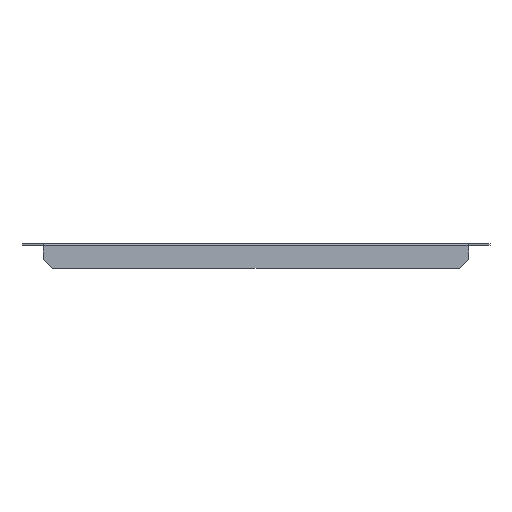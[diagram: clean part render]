
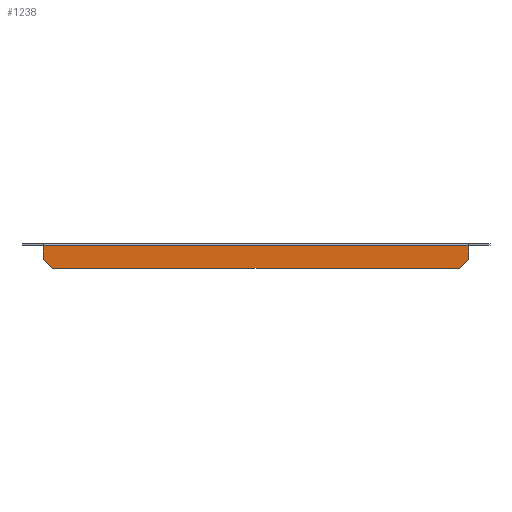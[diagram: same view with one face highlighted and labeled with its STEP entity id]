
A CAD part, front view. The second image highlights one B-rep face of the part: STEP entity #1238.
In plain terms, the highlighted planar face has unit normal (0, -1, 0).
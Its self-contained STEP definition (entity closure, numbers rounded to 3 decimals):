
#69 = DIRECTION ( 'NONE',  ( 0., 0., 1. ) ) ;
#78 = VERTEX_POINT ( 'NONE', #1027 ) ;
#86 = EDGE_CURVE ( 'NONE', #78, #296, #1514, .T. ) ;
#101 = VECTOR ( 'NONE', #376, 1000. ) ;
#127 = VECTOR ( 'NONE', #558, 1000. ) ;
#133 = CARTESIAN_POINT ( 'NONE',  ( 242.154, 0., -222.154 ) ) ;
#168 = ORIENTED_EDGE ( 'NONE', *, *, #1500, .T. ) ;
#214 = CARTESIAN_POINT ( 'NONE',  ( 439.308, 0., -25. ) ) ;
#296 = VERTEX_POINT ( 'NONE', #1547 ) ;
#307 = ORIENTED_EDGE ( 'NONE', *, *, #713, .F. ) ;
#310 = AXIS2_PLACEMENT_3D ( 'NONE', #1411, #813, #69 ) ;
#323 = VERTEX_POINT ( 'NONE', #370 ) ;
#324 = VERTEX_POINT ( 'NONE', #1317 ) ;
#338 = CARTESIAN_POINT ( 'NONE',  ( 448.5, 0., -15.808 ) ) ;
#370 = CARTESIAN_POINT ( 'NONE',  ( 448.5, 0., -2.237 ) ) ;
#374 = LINE ( 'NONE', #439, #127 ) ;
#376 = DIRECTION ( 'NONE',  ( 0.707, 0., 0.707 ) ) ;
#383 = ORIENTED_EDGE ( 'NONE', *, *, #1537, .T. ) ;
#391 = VECTOR ( 'NONE', #758, 1000. ) ;
#429 = LINE ( 'NONE', #827, #1082 ) ;
#439 = CARTESIAN_POINT ( 'NONE',  ( 21.5, 0., -25. ) ) ;
#501 = CARTESIAN_POINT ( 'NONE',  ( 448.5, 0., -1.5 ) ) ;
#519 = ORIENTED_EDGE ( 'NONE', *, *, #86, .T. ) ;
#554 = PLANE ( 'NONE',  #310 ) ;
#558 = DIRECTION ( 'NONE',  ( 1., 0., 0. ) ) ;
#652 = EDGE_CURVE ( 'NONE', #324, #772, #374, .T. ) ;
#694 = DIRECTION ( 'NONE',  ( 0., 0., -1. ) ) ;
#700 = LINE ( 'NONE', #1224, #1310 ) ;
#713 = EDGE_CURVE ( 'NONE', #78, #323, #429, .T. ) ;
#735 = CARTESIAN_POINT ( 'NONE',  ( 21.5, 0., -1.5 ) ) ;
#758 = DIRECTION ( 'NONE',  ( 0., 0., 1. ) ) ;
#770 = ORIENTED_EDGE ( 'NONE', *, *, #893, .T. ) ;
#772 = VERTEX_POINT ( 'NONE', #214 ) ;
#788 = VERTEX_POINT ( 'NONE', #338 ) ;
#813 = DIRECTION ( 'NONE',  ( 0., 1., 0. ) ) ;
#827 = CARTESIAN_POINT ( 'NONE',  ( 448.5, 0., -2.237 ) ) ;
#893 = EDGE_CURVE ( 'NONE', #296, #324, #700, .T. ) ;
#896 = VECTOR ( 'NONE', #694, 1000. ) ;
#937 = EDGE_LOOP ( 'NONE', ( #307, #519, #770, #1280, #168, #383 ) ) ;
#1027 = CARTESIAN_POINT ( 'NONE',  ( 21.5, 0., -2.237 ) ) ;
#1078 = LINE ( 'NONE', #133, #101 ) ;
#1082 = VECTOR ( 'NONE', #1188, 1000. ) ;
#1188 = DIRECTION ( 'NONE',  ( 1., 0., 0. ) ) ;
#1224 = CARTESIAN_POINT ( 'NONE',  ( 14.346, 0., -8.654 ) ) ;
#1238 = ADVANCED_FACE ( 'NONE', ( #1546 ), #554, .F. ) ;
#1280 = ORIENTED_EDGE ( 'NONE', *, *, #652, .T. ) ;
#1310 = VECTOR ( 'NONE', #1354, 1000. ) ;
#1317 = CARTESIAN_POINT ( 'NONE',  ( 30.692, 0., -25. ) ) ;
#1354 = DIRECTION ( 'NONE',  ( 0.707, 0., -0.707 ) ) ;
#1369 = LINE ( 'NONE', #501, #391 ) ;
#1411 = CARTESIAN_POINT ( 'NONE',  ( 21.5, 0., -1.5 ) ) ;
#1500 = EDGE_CURVE ( 'NONE', #772, #788, #1078, .T. ) ;
#1514 = LINE ( 'NONE', #735, #896 ) ;
#1537 = EDGE_CURVE ( 'NONE', #788, #323, #1369, .T. ) ;
#1546 = FACE_OUTER_BOUND ( 'NONE', #937, .T. ) ;
#1547 = CARTESIAN_POINT ( 'NONE',  ( 21.5, 0., -15.808 ) ) ;
